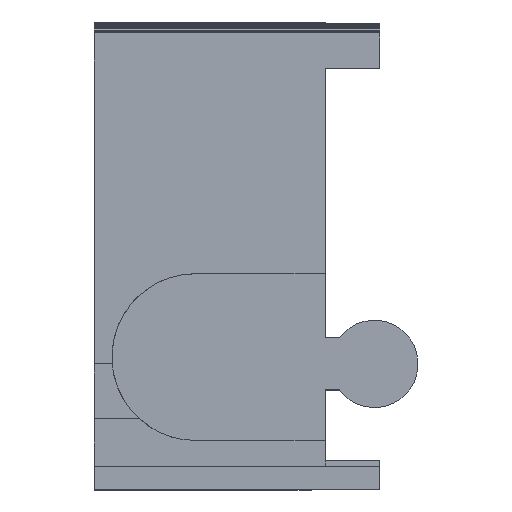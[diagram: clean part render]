
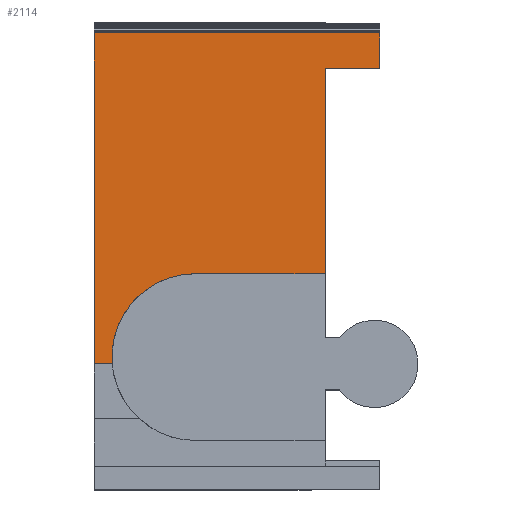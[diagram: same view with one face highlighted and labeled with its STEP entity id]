
A CAD part, top view. The second image highlights one B-rep face of the part: STEP entity #2114.
In plain terms, the highlighted planar face has unit normal (0, 0, 1).
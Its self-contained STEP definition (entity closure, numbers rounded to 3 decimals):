
#32 = PLANE('',#33);
#33 = AXIS2_PLACEMENT_3D('',#34,#35,#36);
#34 = CARTESIAN_POINT('',(-15.,-190.,-0.1));
#35 = DIRECTION('',(1.,0.,-0.));
#36 = DIRECTION('',(0.,0.,1.));
#1849 = VERTEX_POINT('',#1850);
#1850 = CARTESIAN_POINT('',(-15.,-145.8,23.5));
#1863 = PLANE('',#1864);
#1864 = AXIS2_PLACEMENT_3D('',#1865,#1866,#1867);
#1865 = CARTESIAN_POINT('',(126.7,-145.696,23.493));
#1866 = DIRECTION('',(-0.,0.065,0.998));
#1867 = DIRECTION('',(0.,-0.998,0.065));
#1874 = EDGE_CURVE('',#1849,#1875,#1877,.T.);
#1875 = VERTEX_POINT('',#1876);
#1876 = CARTESIAN_POINT('',(-15.,-170.,23.5));
#1877 = SURFACE_CURVE('',#1878,(#1882,#1888),.PCURVE_S1.);
#1878 = LINE('',#1879,#1880);
#1879 = CARTESIAN_POINT('',(-15.,-167.9,23.5));
#1880 = VECTOR('',#1881,1.);
#1881 = DIRECTION('',(0.,-1.,0.));
#1882 = PCURVE('',#32,#1883);
#1883 = DEFINITIONAL_REPRESENTATION('',(#1884),#1887);
#1884 = B_SPLINE_CURVE_WITH_KNOTS('',1,(#1885,#1886),.UNSPECIFIED.,.F.,
  .F.,(2,2),(-32.9,2.1),.PIECEWISE_BEZIER_KNOTS.);
#1885 = CARTESIAN_POINT('',(23.6,-55.));
#1886 = CARTESIAN_POINT('',(23.6,-20.));
#1887 = ( GEOMETRIC_REPRESENTATION_CONTEXT(2) 
PARAMETRIC_REPRESENTATION_CONTEXT() REPRESENTATION_CONTEXT('2D SPACE',''
  ) );
#1888 = PCURVE('',#1889,#1894);
#1889 = PLANE('',#1890);
#1890 = AXIS2_PLACEMENT_3D('',#1891,#1892,#1893);
#1891 = CARTESIAN_POINT('',(126.7,-145.8,23.5));
#1892 = DIRECTION('',(-0.,0.,1.));
#1893 = DIRECTION('',(0.,-1.,0.));
#1894 = DEFINITIONAL_REPRESENTATION('',(#1895),#1898);
#1895 = B_SPLINE_CURVE_WITH_KNOTS('',1,(#1896,#1897),.UNSPECIFIED.,.F.,
  .F.,(2,2),(-32.9,2.1),.PIECEWISE_BEZIER_KNOTS.);
#1896 = CARTESIAN_POINT('',(-10.8,-141.7));
#1897 = CARTESIAN_POINT('',(24.2,-141.7));
#1898 = ( GEOMETRIC_REPRESENTATION_CONTEXT(2) 
PARAMETRIC_REPRESENTATION_CONTEXT() REPRESENTATION_CONTEXT('2D SPACE',''
  ) );
#1915 = PLANE('',#1916);
#1916 = AXIS2_PLACEMENT_3D('',#1917,#1918,#1919);
#1917 = CARTESIAN_POINT('',(-186.,-170.,22.4));
#1918 = DIRECTION('',(0.,1.,0.));
#1919 = DIRECTION('',(1.,0.,0.));
#2011 = CYLINDRICAL_SURFACE('',#2012,6.1);
#2012 = AXIS2_PLACEMENT_3D('',#2013,#2014,#2015);
#2013 = CARTESIAN_POINT('',(-7.6,-169.5,21.5));
#2014 = DIRECTION('',(0.,0.,1.));
#2015 = DIRECTION('',(1.,0.,-0.));
#2074 = VERTEX_POINT('',#2075);
#2075 = CARTESIAN_POINT('',(-13.679,-170.,23.5));
#2096 = EDGE_CURVE('',#2074,#1875,#2097,.T.);
#2097 = SURFACE_CURVE('',#2098,(#2102,#2108),.PCURVE_S1.);
#2098 = LINE('',#2099,#2100);
#2099 = CARTESIAN_POINT('',(-29.65,-170.,23.5));
#2100 = VECTOR('',#2101,1.);
#2101 = DIRECTION('',(-1.,0.,-0.));
#2102 = PCURVE('',#1915,#2103);
#2103 = DEFINITIONAL_REPRESENTATION('',(#2104),#2107);
#2104 = B_SPLINE_CURVE_WITH_KNOTS('',1,(#2105,#2106),.UNSPECIFIED.,.F.,
  .F.,(2,2),(-215.65,156.35),.PIECEWISE_BEZIER_KNOTS.);
#2105 = CARTESIAN_POINT('',(372.,-1.1));
#2106 = CARTESIAN_POINT('',(0.,-1.1));
#2107 = ( GEOMETRIC_REPRESENTATION_CONTEXT(2) 
PARAMETRIC_REPRESENTATION_CONTEXT() REPRESENTATION_CONTEXT('2D SPACE',''
  ) );
#2108 = PCURVE('',#1889,#2109);
#2109 = DEFINITIONAL_REPRESENTATION('',(#2110),#2113);
#2110 = B_SPLINE_CURVE_WITH_KNOTS('',1,(#2111,#2112),.UNSPECIFIED.,.F.,
  .F.,(2,2),(-215.65,156.35),.PIECEWISE_BEZIER_KNOTS.);
#2111 = CARTESIAN_POINT('',(24.2,59.3));
#2112 = CARTESIAN_POINT('',(24.2,-312.7));
#2113 = ( GEOMETRIC_REPRESENTATION_CONTEXT(2) 
PARAMETRIC_REPRESENTATION_CONTEXT() REPRESENTATION_CONTEXT('2D SPACE',''
  ) );
#2114 = ADVANCED_FACE('',(#2115),#1889,.T.);
#2115 = FACE_BOUND('',#2116,.T.);
#2116 = EDGE_LOOP('',(#2117,#2141,#2168,#2195,#2222,#2249,#2270,#2271));
#2117 = ORIENTED_EDGE('',*,*,#2118,.F.);
#2118 = EDGE_CURVE('',#2119,#2074,#2121,.T.);
#2119 = VERTEX_POINT('',#2120);
#2120 = CARTESIAN_POINT('',(-7.6,-163.4,23.5));
#2121 = SURFACE_CURVE('',#2122,(#2127,#2134),.PCURVE_S1.);
#2122 = CIRCLE('',#2123,6.1);
#2123 = AXIS2_PLACEMENT_3D('',#2124,#2125,#2126);
#2124 = CARTESIAN_POINT('',(-7.6,-169.5,23.5));
#2125 = DIRECTION('',(0.,0.,1.));
#2126 = DIRECTION('',(1.,0.,-0.));
#2127 = PCURVE('',#1889,#2128);
#2128 = DEFINITIONAL_REPRESENTATION('',(#2129),#2133);
#2129 = CIRCLE('',#2130,6.1);
#2130 = AXIS2_PLACEMENT_2D('',#2131,#2132);
#2131 = CARTESIAN_POINT('',(23.7,-134.3));
#2132 = DIRECTION('',(0.,1.));
#2133 = ( GEOMETRIC_REPRESENTATION_CONTEXT(2) 
PARAMETRIC_REPRESENTATION_CONTEXT() REPRESENTATION_CONTEXT('2D SPACE',''
  ) );
#2134 = PCURVE('',#2011,#2135);
#2135 = DEFINITIONAL_REPRESENTATION('',(#2136),#2140);
#2136 = LINE('',#2137,#2138);
#2137 = CARTESIAN_POINT('',(0.,2.));
#2138 = VECTOR('',#2139,1.);
#2139 = DIRECTION('',(1.,0.));
#2140 = ( GEOMETRIC_REPRESENTATION_CONTEXT(2) 
PARAMETRIC_REPRESENTATION_CONTEXT() REPRESENTATION_CONTEXT('2D SPACE',''
  ) );
#2141 = ORIENTED_EDGE('',*,*,#2142,.F.);
#2142 = EDGE_CURVE('',#2143,#2119,#2145,.T.);
#2143 = VERTEX_POINT('',#2144);
#2144 = CARTESIAN_POINT('',(1.9,-163.4,23.5));
#2145 = SURFACE_CURVE('',#2146,(#2150,#2157),.PCURVE_S1.);
#2146 = LINE('',#2147,#2148);
#2147 = CARTESIAN_POINT('',(59.55,-163.4,23.5));
#2148 = VECTOR('',#2149,1.);
#2149 = DIRECTION('',(-1.,0.,0.));
#2150 = PCURVE('',#1889,#2151);
#2151 = DEFINITIONAL_REPRESENTATION('',(#2152),#2156);
#2152 = LINE('',#2153,#2154);
#2153 = CARTESIAN_POINT('',(17.6,-67.15));
#2154 = VECTOR('',#2155,1.);
#2155 = DIRECTION('',(0.,-1.));
#2156 = ( GEOMETRIC_REPRESENTATION_CONTEXT(2) 
PARAMETRIC_REPRESENTATION_CONTEXT() REPRESENTATION_CONTEXT('2D SPACE',''
  ) );
#2157 = PCURVE('',#2158,#2163);
#2158 = PLANE('',#2159);
#2159 = AXIS2_PLACEMENT_3D('',#2160,#2161,#2162);
#2160 = CARTESIAN_POINT('',(-7.6,-163.4,21.5));
#2161 = DIRECTION('',(-0.,1.,0.));
#2162 = DIRECTION('',(0.,0.,1.));
#2163 = DEFINITIONAL_REPRESENTATION('',(#2164),#2167);
#2164 = B_SPLINE_CURVE_WITH_KNOTS('',1,(#2165,#2166),.UNSPECIFIED.,.F.,
  .F.,(2,2),(51.95,67.15),.PIECEWISE_BEZIER_KNOTS.);
#2165 = CARTESIAN_POINT('',(2.,15.2));
#2166 = CARTESIAN_POINT('',(2.,0.));
#2167 = ( GEOMETRIC_REPRESENTATION_CONTEXT(2) 
PARAMETRIC_REPRESENTATION_CONTEXT() REPRESENTATION_CONTEXT('2D SPACE',''
  ) );
#2168 = ORIENTED_EDGE('',*,*,#2169,.T.);
#2169 = EDGE_CURVE('',#2143,#2170,#2172,.T.);
#2170 = VERTEX_POINT('',#2171);
#2171 = CARTESIAN_POINT('',(1.9,-148.4,23.5));
#2172 = SURFACE_CURVE('',#2173,(#2177,#2183),.PCURVE_S1.);
#2173 = LINE('',#2174,#2175);
#2174 = CARTESIAN_POINT('',(1.9,-156.95,23.5));
#2175 = VECTOR('',#2176,1.);
#2176 = DIRECTION('',(0.,1.,-0.));
#2177 = PCURVE('',#1889,#2178);
#2178 = DEFINITIONAL_REPRESENTATION('',(#2179),#2182);
#2179 = B_SPLINE_CURVE_WITH_KNOTS('',1,(#2180,#2181),.UNSPECIFIED.,.F.,
  .F.,(2,2),(-11.15,8.55),.PIECEWISE_BEZIER_KNOTS.);
#2180 = CARTESIAN_POINT('',(22.3,-124.8));
#2181 = CARTESIAN_POINT('',(2.6,-124.8));
#2182 = ( GEOMETRIC_REPRESENTATION_CONTEXT(2) 
PARAMETRIC_REPRESENTATION_CONTEXT() REPRESENTATION_CONTEXT('2D SPACE',''
  ) );
#2183 = PCURVE('',#2184,#2189);
#2184 = PLANE('',#2185);
#2185 = AXIS2_PLACEMENT_3D('',#2186,#2187,#2188);
#2186 = CARTESIAN_POINT('',(1.9,-168.1,38.));
#2187 = DIRECTION('',(1.,0.,0.));
#2188 = DIRECTION('',(-0.,1.,0.));
#2189 = DEFINITIONAL_REPRESENTATION('',(#2190),#2194);
#2190 = LINE('',#2191,#2192);
#2191 = CARTESIAN_POINT('',(11.15,-14.5));
#2192 = VECTOR('',#2193,1.);
#2193 = DIRECTION('',(1.,0.));
#2194 = ( GEOMETRIC_REPRESENTATION_CONTEXT(2) 
PARAMETRIC_REPRESENTATION_CONTEXT() REPRESENTATION_CONTEXT('2D SPACE',''
  ) );
#2195 = ORIENTED_EDGE('',*,*,#2196,.T.);
#2196 = EDGE_CURVE('',#2170,#2197,#2199,.T.);
#2197 = VERTEX_POINT('',#2198);
#2198 = CARTESIAN_POINT('',(5.9,-148.4,23.5));
#2199 = SURFACE_CURVE('',#2200,(#2204,#2210),.PCURVE_S1.);
#2200 = LINE('',#2201,#2202);
#2201 = CARTESIAN_POINT('',(64.3,-148.4,23.5));
#2202 = VECTOR('',#2203,1.);
#2203 = DIRECTION('',(1.,0.,0.));
#2204 = PCURVE('',#1889,#2205);
#2205 = DEFINITIONAL_REPRESENTATION('',(#2206),#2209);
#2206 = B_SPLINE_CURVE_WITH_KNOTS('',1,(#2207,#2208),.UNSPECIFIED.,.F.,
  .F.,(2,2),(-62.4,-58.4),.PIECEWISE_BEZIER_KNOTS.);
#2207 = CARTESIAN_POINT('',(2.6,-124.8));
#2208 = CARTESIAN_POINT('',(2.6,-120.8));
#2209 = ( GEOMETRIC_REPRESENTATION_CONTEXT(2) 
PARAMETRIC_REPRESENTATION_CONTEXT() REPRESENTATION_CONTEXT('2D SPACE',''
  ) );
#2210 = PCURVE('',#2211,#2216);
#2211 = PLANE('',#2212);
#2212 = AXIS2_PLACEMENT_3D('',#2213,#2214,#2215);
#2213 = CARTESIAN_POINT('',(1.9,-148.4,38.));
#2214 = DIRECTION('',(0.,-1.,0.));
#2215 = DIRECTION('',(1.,0.,0.));
#2216 = DEFINITIONAL_REPRESENTATION('',(#2217),#2221);
#2217 = LINE('',#2218,#2219);
#2218 = CARTESIAN_POINT('',(62.4,-14.5));
#2219 = VECTOR('',#2220,1.);
#2220 = DIRECTION('',(1.,0.));
#2221 = ( GEOMETRIC_REPRESENTATION_CONTEXT(2) 
PARAMETRIC_REPRESENTATION_CONTEXT() REPRESENTATION_CONTEXT('2D SPACE',''
  ) );
#2222 = ORIENTED_EDGE('',*,*,#2223,.T.);
#2223 = EDGE_CURVE('',#2197,#2224,#2226,.T.);
#2224 = VERTEX_POINT('',#2225);
#2225 = CARTESIAN_POINT('',(5.9,-145.8,23.5));
#2226 = SURFACE_CURVE('',#2227,(#2231,#2237),.PCURVE_S1.);
#2227 = LINE('',#2228,#2229);
#2228 = CARTESIAN_POINT('',(5.9,-147.1,23.5));
#2229 = VECTOR('',#2230,1.);
#2230 = DIRECTION('',(0.,1.,-0.));
#2231 = PCURVE('',#1889,#2232);
#2232 = DEFINITIONAL_REPRESENTATION('',(#2233),#2236);
#2233 = B_SPLINE_CURVE_WITH_KNOTS('',1,(#2234,#2235),.UNSPECIFIED.,.F.,
  .F.,(2,2),(-1.3,2.),.PIECEWISE_BEZIER_KNOTS.);
#2234 = CARTESIAN_POINT('',(2.6,-120.8));
#2235 = CARTESIAN_POINT('',(-0.7,-120.8));
#2236 = ( GEOMETRIC_REPRESENTATION_CONTEXT(2) 
PARAMETRIC_REPRESENTATION_CONTEXT() REPRESENTATION_CONTEXT('2D SPACE',''
  ) );
#2237 = PCURVE('',#2238,#2243);
#2238 = PLANE('',#2239);
#2239 = AXIS2_PLACEMENT_3D('',#2240,#2241,#2242);
#2240 = CARTESIAN_POINT('',(5.9,-148.4,38.));
#2241 = DIRECTION('',(1.,0.,0.));
#2242 = DIRECTION('',(-0.,1.,0.));
#2243 = DEFINITIONAL_REPRESENTATION('',(#2244),#2248);
#2244 = LINE('',#2245,#2246);
#2245 = CARTESIAN_POINT('',(1.3,-14.5));
#2246 = VECTOR('',#2247,1.);
#2247 = DIRECTION('',(1.,0.));
#2248 = ( GEOMETRIC_REPRESENTATION_CONTEXT(2) 
PARAMETRIC_REPRESENTATION_CONTEXT() REPRESENTATION_CONTEXT('2D SPACE',''
  ) );
#2249 = ORIENTED_EDGE('',*,*,#2250,.T.);
#2250 = EDGE_CURVE('',#2224,#1849,#2251,.T.);
#2251 = SURFACE_CURVE('',#2252,(#2256,#2263),.PCURVE_S1.);
#2252 = LINE('',#2253,#2254);
#2253 = CARTESIAN_POINT('',(160.,-145.8,23.5));
#2254 = VECTOR('',#2255,1.);
#2255 = DIRECTION('',(-1.,0.,0.));
#2256 = PCURVE('',#1889,#2257);
#2257 = DEFINITIONAL_REPRESENTATION('',(#2258),#2262);
#2258 = LINE('',#2259,#2260);
#2259 = CARTESIAN_POINT('',(0.,33.3));
#2260 = VECTOR('',#2261,1.);
#2261 = DIRECTION('',(0.,-1.));
#2262 = ( GEOMETRIC_REPRESENTATION_CONTEXT(2) 
PARAMETRIC_REPRESENTATION_CONTEXT() REPRESENTATION_CONTEXT('2D SPACE',''
  ) );
#2263 = PCURVE('',#1863,#2264);
#2264 = DEFINITIONAL_REPRESENTATION('',(#2265),#2269);
#2265 = LINE('',#2266,#2267);
#2266 = CARTESIAN_POINT('',(0.105,33.3));
#2267 = VECTOR('',#2268,1.);
#2268 = DIRECTION('',(0.,-1.));
#2269 = ( GEOMETRIC_REPRESENTATION_CONTEXT(2) 
PARAMETRIC_REPRESENTATION_CONTEXT() REPRESENTATION_CONTEXT('2D SPACE',''
  ) );
#2270 = ORIENTED_EDGE('',*,*,#1874,.T.);
#2271 = ORIENTED_EDGE('',*,*,#2096,.F.);
